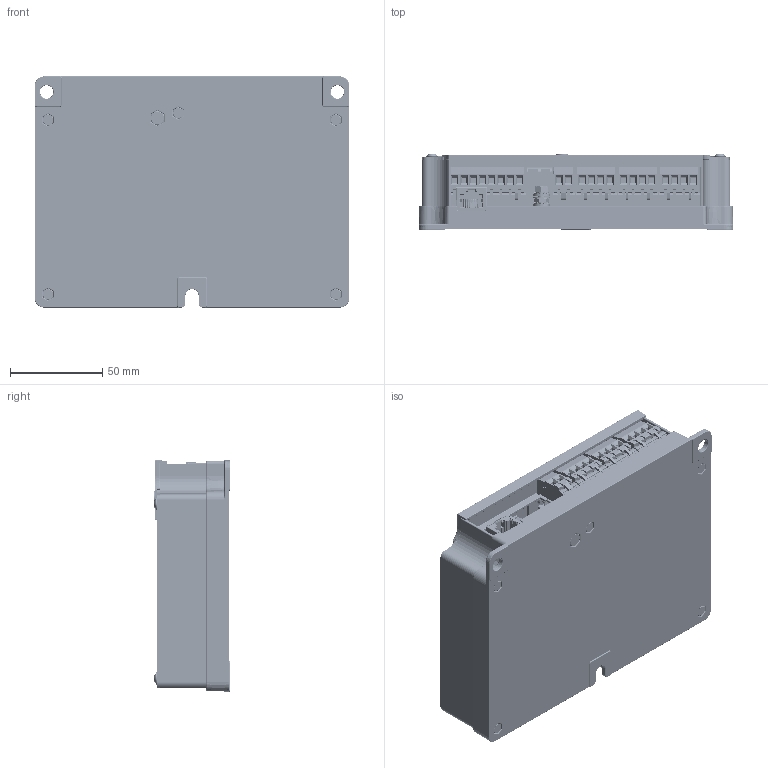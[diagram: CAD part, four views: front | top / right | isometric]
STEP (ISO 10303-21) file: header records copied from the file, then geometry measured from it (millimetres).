
FILE_DESCRIPTION (( 'STEP AP214' ), '1' );
FILE_NAME ('WIC1-4 g2 [DUAL Power and Optical Ethernet]1.STEP', '2024-12-19T15:29:25', ( '' ), ( '' ), 'SwSTEP 2.0', 'SolidWorks 2023', '' );
FILE_SCHEMA (( 'AUTOMOTIVE_DESIGN' ));
Length unit declared in the file: millimetre
Products named in the file (1): WIC1-4 g2 [DUAL Power and Optical Ethernet]1
Bounding box: 170 x 41.23 x 125 mm (x, y, z)
Surface area: 326165 mm2 (no closed solid volume)
Topology: 0 solids, 53 shells, 7679 faces, 23019 edges, 16066 vertices
Faces by surface type: plane 4621, cylinder 1767, bspline 795, cone 269, torus 147, sphere 80
Full cylindrical faces by diameter (mm): 0.46 x10, 1 x8, 1.07 x2, 1.14 x5, 1.45 x22, 1.5 x18, 1.52 x2, 1.6 x2, 2 x2, 2.5 x1, 2.76 x22, 3 x5, 3.25 x2, 3.3 x2, 3.7 x10, 3.85 x10, 4 x12, 4.1 x5, 4.3 x5, 4.5 x8, 4.9 x10, 5.2 x6, 5.5 x3, 7 x5, 8.2 x1, 9 x3, 10 x5, 10.2 x5
Entity records: 348171 total; most frequent: CARTESIAN_POINT 85166, ORIENTED_EDGE 44860, DIRECTION 34754, EDGE_CURVE 22430, VERTEX_POINT 15928, VECTOR 14280, LINE 14280, AXIS2_PLACEMENT_3D 10237
